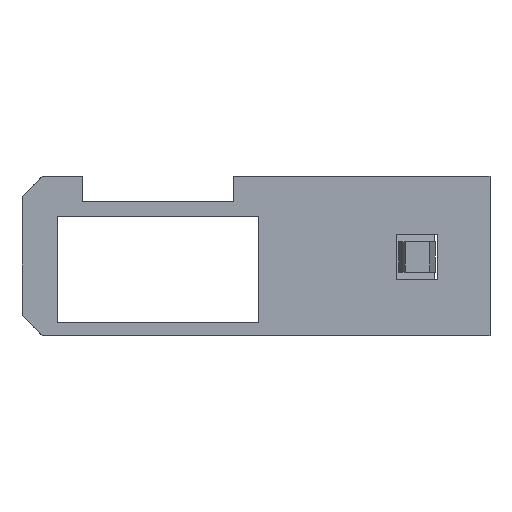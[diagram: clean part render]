
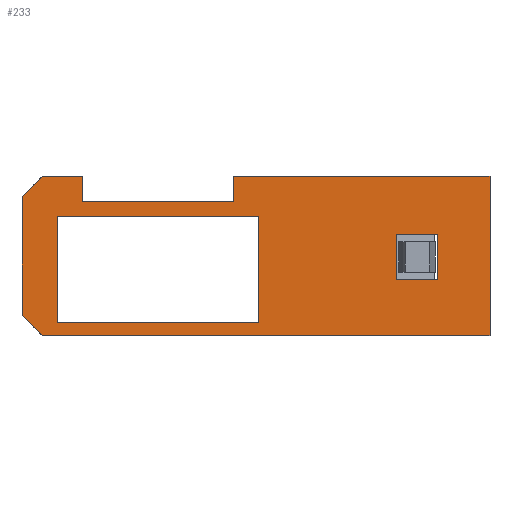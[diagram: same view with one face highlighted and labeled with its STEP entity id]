
A CAD part, top view. The second image highlights one B-rep face of the part: STEP entity #233.
In plain terms, the highlighted planar face has unit normal (0, 0, 1).
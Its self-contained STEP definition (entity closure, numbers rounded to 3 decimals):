
#32 = VERTEX_POINT('',#33);
#33 = CARTESIAN_POINT('',(39.,-13.8,36.));
#39 = EDGE_CURVE('',#40,#32,#42,.T.);
#40 = VERTEX_POINT('',#41);
#41 = CARTESIAN_POINT('',(41.,-15.8,36.));
#42 = LINE('',#43,#44);
#43 = CARTESIAN_POINT('',(47.675,-22.475,36.));
#44 = VECTOR('',#45,1.);
#45 = DIRECTION('',(-0.707,0.707,0.)
  );
#145 = VERTEX_POINT('',#146);
#146 = CARTESIAN_POINT('',(39.,-2.,36.));
#152 = EDGE_CURVE('',#145,#32,#153,.T.);
#153 = LINE('',#154,#155);
#154 = CARTESIAN_POINT('',(39.,0.,36.));
#155 = VECTOR('',#156,1.);
#156 = DIRECTION('',(0.,-1.,0.));
#169 = EDGE_CURVE('',#170,#40,#172,.T.);
#170 = VERTEX_POINT('',#171);
#171 = CARTESIAN_POINT('',(85.5,-15.8,36.));
#172 = LINE('',#173,#174);
#173 = CARTESIAN_POINT('',(85.5,-15.8,36.));
#174 = VECTOR('',#175,1.);
#175 = DIRECTION('',(-1.,0.,0.));
#233 = ADVANCED_FACE('',(#234,#293,#327),#361,.F.);
#234 = FACE_BOUND('',#235,.F.);
#235 = EDGE_LOOP('',(#236,#237,#238,#239,#247,#255,#263,#271,#279,#287)
  );
#236 = ORIENTED_EDGE('',*,*,#169,.T.);
#237 = ORIENTED_EDGE('',*,*,#39,.T.);
#238 = ORIENTED_EDGE('',*,*,#152,.F.);
#239 = ORIENTED_EDGE('',*,*,#240,.T.);
#240 = EDGE_CURVE('',#145,#241,#243,.T.);
#241 = VERTEX_POINT('',#242);
#242 = CARTESIAN_POINT('',(41.,0.,36.));
#243 = LINE('',#244,#245);
#244 = CARTESIAN_POINT('',(51.625,10.625,36.));
#245 = VECTOR('',#246,1.);
#246 = DIRECTION('',(0.707,0.707,0.)
  );
#247 = ORIENTED_EDGE('',*,*,#248,.F.);
#248 = EDGE_CURVE('',#249,#241,#251,.T.);
#249 = VERTEX_POINT('',#250);
#250 = CARTESIAN_POINT('',(45.,0.,36.));
#251 = LINE('',#252,#253);
#252 = CARTESIAN_POINT('',(85.5,0.,36.));
#253 = VECTOR('',#254,1.);
#254 = DIRECTION('',(-1.,0.,0.));
#255 = ORIENTED_EDGE('',*,*,#256,.F.);
#256 = EDGE_CURVE('',#257,#249,#259,.T.);
#257 = VERTEX_POINT('',#258);
#258 = CARTESIAN_POINT('',(45.,-2.5,36.));
#259 = LINE('',#260,#261);
#260 = CARTESIAN_POINT('',(45.,-2.5,36.));
#261 = VECTOR('',#262,1.);
#262 = DIRECTION('',(0.,1.,0.));
#263 = ORIENTED_EDGE('',*,*,#264,.F.);
#264 = EDGE_CURVE('',#265,#257,#267,.T.);
#265 = VERTEX_POINT('',#266);
#266 = CARTESIAN_POINT('',(60.,-2.5,36.));
#267 = LINE('',#268,#269);
#268 = CARTESIAN_POINT('',(60.,-2.5,36.));
#269 = VECTOR('',#270,1.);
#270 = DIRECTION('',(-1.,0.,0.));
#271 = ORIENTED_EDGE('',*,*,#272,.F.);
#272 = EDGE_CURVE('',#273,#265,#275,.T.);
#273 = VERTEX_POINT('',#274);
#274 = CARTESIAN_POINT('',(60.,0.,36.));
#275 = LINE('',#276,#277);
#276 = CARTESIAN_POINT('',(60.,0.,36.));
#277 = VECTOR('',#278,1.);
#278 = DIRECTION('',(0.,-1.,0.));
#279 = ORIENTED_EDGE('',*,*,#280,.F.);
#280 = EDGE_CURVE('',#281,#273,#283,.T.);
#281 = VERTEX_POINT('',#282);
#282 = CARTESIAN_POINT('',(85.5,0.,36.));
#283 = LINE('',#284,#285);
#284 = CARTESIAN_POINT('',(85.5,0.,36.));
#285 = VECTOR('',#286,1.);
#286 = DIRECTION('',(-1.,0.,0.));
#287 = ORIENTED_EDGE('',*,*,#288,.T.);
#288 = EDGE_CURVE('',#281,#170,#289,.T.);
#289 = LINE('',#290,#291);
#290 = CARTESIAN_POINT('',(85.5,0.,36.));
#291 = VECTOR('',#292,1.);
#292 = DIRECTION('',(0.,-1.,0.));
#293 = FACE_BOUND('',#294,.F.);
#294 = EDGE_LOOP('',(#295,#305,#313,#321));
#295 = ORIENTED_EDGE('',*,*,#296,.T.);
#296 = EDGE_CURVE('',#297,#299,#301,.T.);
#297 = VERTEX_POINT('',#298);
#298 = CARTESIAN_POINT('',(62.5,-4.,36.));
#299 = VERTEX_POINT('',#300);
#300 = CARTESIAN_POINT('',(42.5,-4.,36.));
#301 = LINE('',#302,#303);
#302 = CARTESIAN_POINT('',(62.5,-4.,36.));
#303 = VECTOR('',#304,1.);
#304 = DIRECTION('',(-1.,0.,0.));
#305 = ORIENTED_EDGE('',*,*,#306,.T.);
#306 = EDGE_CURVE('',#299,#307,#309,.T.);
#307 = VERTEX_POINT('',#308);
#308 = CARTESIAN_POINT('',(42.5,-14.5,36.));
#309 = LINE('',#310,#311);
#310 = CARTESIAN_POINT('',(42.5,-4.,36.));
#311 = VECTOR('',#312,1.);
#312 = DIRECTION('',(0.,-1.,0.));
#313 = ORIENTED_EDGE('',*,*,#314,.T.);
#314 = EDGE_CURVE('',#307,#315,#317,.T.);
#315 = VERTEX_POINT('',#316);
#316 = CARTESIAN_POINT('',(62.5,-14.5,36.));
#317 = LINE('',#318,#319);
#318 = CARTESIAN_POINT('',(42.5,-14.5,36.));
#319 = VECTOR('',#320,1.);
#320 = DIRECTION('',(1.,0.,0.));
#321 = ORIENTED_EDGE('',*,*,#322,.T.);
#322 = EDGE_CURVE('',#315,#297,#323,.T.);
#323 = LINE('',#324,#325);
#324 = CARTESIAN_POINT('',(62.5,-14.5,36.));
#325 = VECTOR('',#326,1.);
#326 = DIRECTION('',(0.,1.,0.));
#327 = FACE_BOUND('',#328,.F.);
#328 = EDGE_LOOP('',(#329,#339,#347,#355));
#329 = ORIENTED_EDGE('',*,*,#330,.T.);
#330 = EDGE_CURVE('',#331,#333,#335,.T.);
#331 = VERTEX_POINT('',#332);
#332 = CARTESIAN_POINT('',(76.23,-10.25,36.));
#333 = VERTEX_POINT('',#334);
#334 = CARTESIAN_POINT('',(80.258,-10.25,36.));
#335 = LINE('',#336,#337);
#336 = CARTESIAN_POINT('',(82.207,-10.25,36.));
#337 = VECTOR('',#338,1.);
#338 = DIRECTION('',(1.,0.,0.));
#339 = ORIENTED_EDGE('',*,*,#340,.T.);
#340 = EDGE_CURVE('',#333,#341,#343,.T.);
#341 = VERTEX_POINT('',#342);
#342 = CARTESIAN_POINT('',(80.258,-5.75,36.));
#343 = LINE('',#344,#345);
#344 = CARTESIAN_POINT('',(80.258,-2.875,36.));
#345 = VECTOR('',#346,1.);
#346 = DIRECTION('',(0.,1.,0.));
#347 = ORIENTED_EDGE('',*,*,#348,.F.);
#348 = EDGE_CURVE('',#349,#341,#351,.T.);
#349 = VERTEX_POINT('',#350);
#350 = CARTESIAN_POINT('',(76.23,-5.75,36.));
#351 = LINE('',#352,#353);
#352 = CARTESIAN_POINT('',(82.207,-5.75,36.));
#353 = VECTOR('',#354,1.);
#354 = DIRECTION('',(1.,0.,0.));
#355 = ORIENTED_EDGE('',*,*,#356,.F.);
#356 = EDGE_CURVE('',#331,#349,#357,.T.);
#357 = LINE('',#358,#359);
#358 = CARTESIAN_POINT('',(76.23,-5.75,36.));
#359 = VECTOR('',#360,1.);
#360 = DIRECTION('',(0.,1.,0.));
#361 = PLANE('',#362);
#362 = AXIS2_PLACEMENT_3D('',#363,#364,#365);
#363 = CARTESIAN_POINT('',(85.5,0.,36.));
#364 = DIRECTION('',(-0.,0.,-1.));
#365 = DIRECTION('',(-1.,0.,0.));
